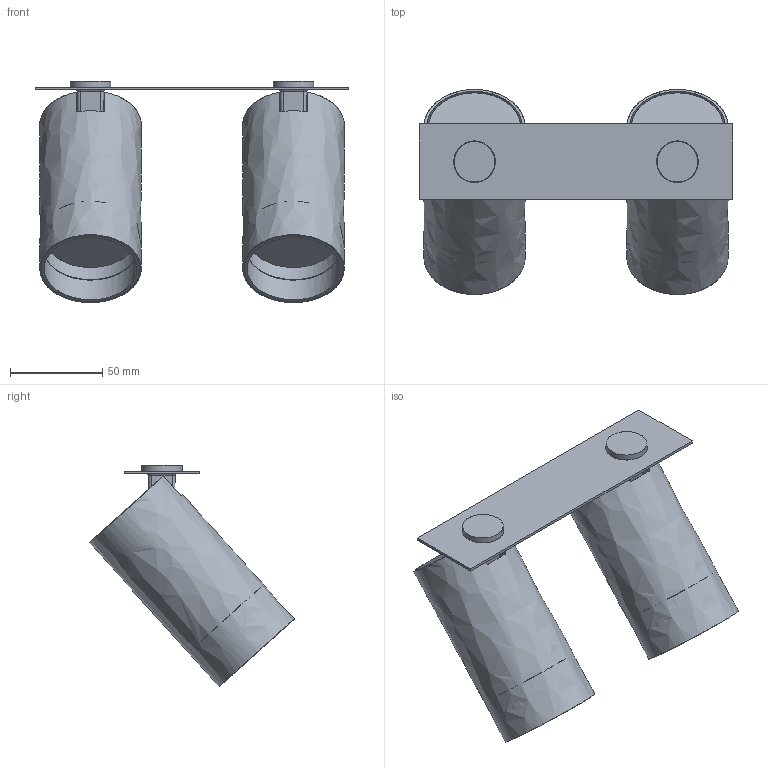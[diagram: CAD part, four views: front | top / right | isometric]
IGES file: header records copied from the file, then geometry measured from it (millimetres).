
Start section: SolidWorks IGES file using NURBS representation for surfaces
Global section: file name: Z:\Modele 3D_WWW\_KOLEKCJE_WWW\MONO\MONO-SURFACE\7684\MONO-SURFACE-II-GOLD-7684.IGS; native system: SolidWorks 2021; preprocessor: SolidWorks 2021; author: gabriela.tworek; date: 220124.100538; units: millimetre
Bounding box: 170 x 111.13 x 119.94 mm (x, y, z)
Surface area: 122138.5 mm2 (no closed solid volume)
Topology: 0 solids, 0 shells, 104 faces, 620 edges, 600 vertices
Faces by surface type: bspline 104
